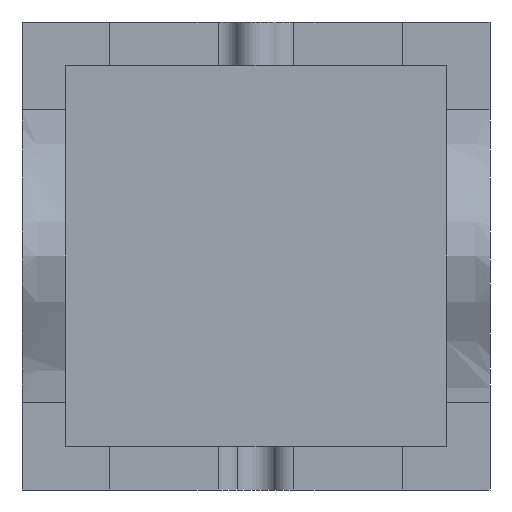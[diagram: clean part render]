
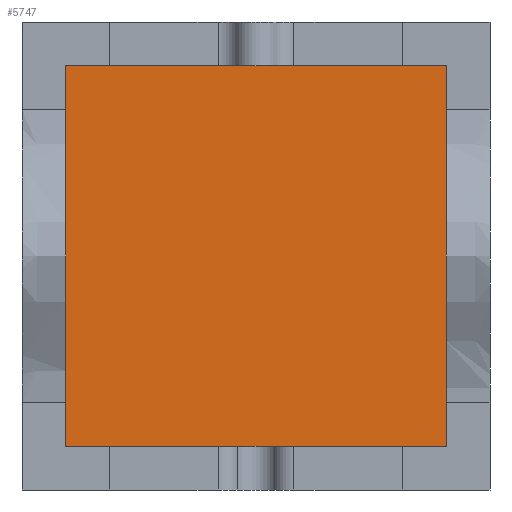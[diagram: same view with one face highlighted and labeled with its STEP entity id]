
A CAD part, front view. The second image highlights one B-rep face of the part: STEP entity #5747.
In plain terms, the highlighted planar face has unit normal (0, -1, 0).
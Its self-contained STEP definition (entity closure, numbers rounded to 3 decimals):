
#5621=CARTESIAN_POINT('Vertex',(-20.,-30.,-20.)) ;
#5626=CARTESIAN_POINT('Line Origine',(-20.,-30.,67.)) ;
#5630=CARTESIAN_POINT('Vertex',(-20.,-30.,154.)) ;
#5657=CARTESIAN_POINT('Line Origine',(67.,-30.,154.)) ;
#5661=CARTESIAN_POINT('Vertex',(154.,-30.,154.)) ;
#5688=CARTESIAN_POINT('Line Origine',(154.,-30.,67.)) ;
#5692=CARTESIAN_POINT('Vertex',(154.,-30.,-20.)) ;
#5719=CARTESIAN_POINT('Line Origine',(67.,-30.,-20.)) ;
#5736=CARTESIAN_POINT('Axis2P3D Location',(0.,-30.,0.)) ;
#5627=DIRECTION('Vector Direction',(0.,0.,-1.)) ;
#5658=DIRECTION('Vector Direction',(1.,0.,0.)) ;
#5689=DIRECTION('Vector Direction',(0.,0.,1.)) ;
#5720=DIRECTION('Vector Direction',(-1.,0.,0.)) ;
#5737=DIRECTION('Axis2P3D Direction',(0.,1.,0.)) ;
#5738=DIRECTION('Axis2P3D XDirection',(-1.,0.,0.)) ;
#5739=AXIS2_PLACEMENT_3D('Plane Axis2P3D',#5736,#5737,#5738) ;
#5742=ORIENTED_EDGE('',*,*,#5723,.F.) ;
#5743=ORIENTED_EDGE('',*,*,#5694,.F.) ;
#5744=ORIENTED_EDGE('',*,*,#5663,.F.) ;
#5745=ORIENTED_EDGE('',*,*,#5632,.F.) ;
#5628=VECTOR('Line Direction',#5627,1.) ;
#5659=VECTOR('Line Direction',#5658,1.) ;
#5690=VECTOR('Line Direction',#5689,1.) ;
#5721=VECTOR('Line Direction',#5720,1.) ;
#5747=ADVANCED_FACE('Cavity-molde',(#5746),#5740,.F.) ;
#5632=EDGE_CURVE('',#5622,#5631,#5629,.F.) ;
#5663=EDGE_CURVE('',#5631,#5662,#5660,.T.) ;
#5694=EDGE_CURVE('',#5662,#5693,#5691,.F.) ;
#5723=EDGE_CURVE('',#5693,#5622,#5722,.T.) ;
#5741=EDGE_LOOP('',(#5742,#5743,#5744,#5745)) ;
#5746=FACE_OUTER_BOUND('',#5741,.T.) ;
#5629=LINE('Line',#5626,#5628) ;
#5660=LINE('Line',#5657,#5659) ;
#5691=LINE('Line',#5688,#5690) ;
#5722=LINE('Line',#5719,#5721) ;
#5740=PLANE('',#5739) ;
#5622=VERTEX_POINT('',#5621) ;
#5631=VERTEX_POINT('',#5630) ;
#5662=VERTEX_POINT('',#5661) ;
#5693=VERTEX_POINT('',#5692) ;
